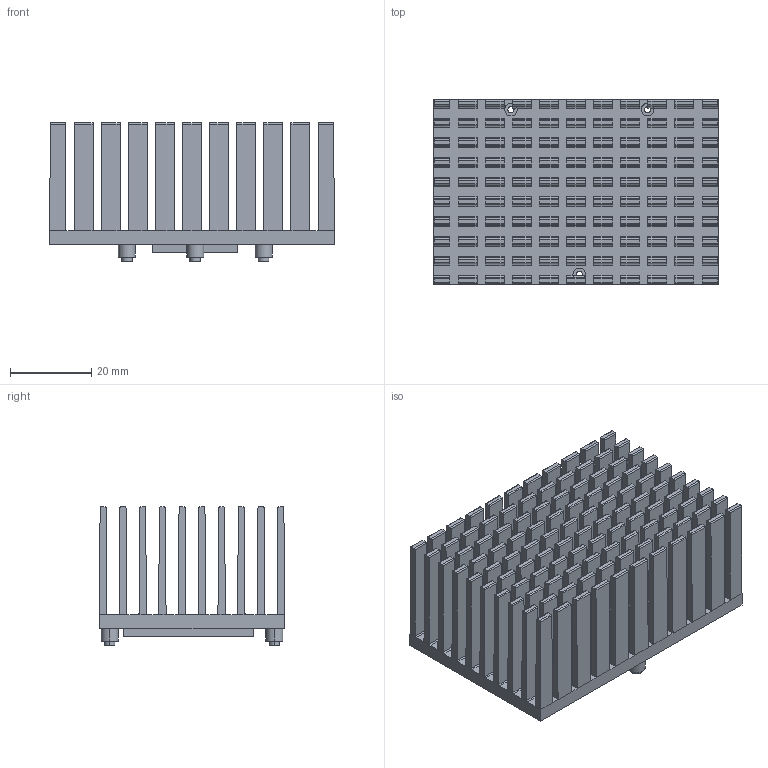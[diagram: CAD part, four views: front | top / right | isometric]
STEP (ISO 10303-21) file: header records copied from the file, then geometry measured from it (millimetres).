
FILE_DESCRIPTION (( 'STEP AP214' ), '1' );
FILE_NAME ('FIT0989-Fanless-Heatsink.step', '2024-02-23T09:28:19', ( 'China' ), ( 'Microsoft' ), 'SwSTEP 2.0', 'SolidWorks 2021', '' );
FILE_SCHEMA (( 'AUTOMOTIVE_DESIGN' ));
Length unit declared in the file: millimetre
Products named in the file (1): FIT0989-Fanless-Heatsink
Bounding box: 70 x 45.5 x 34 mm (x, y, z)
Volume: 34482 mm3; surface area: 43456.2 mm2
Topology: 4 solids, 4 shells, 1015 faces, 2716 edges, 1782 vertices
Faces by surface type: plane 573, cylinder 442
Entity records: 31761 total; most frequent: CARTESIAN_POINT 5742, DIRECTION 5486, ORIENTED_EDGE 5432, EDGE_CURVE 2716, AXIS2_PLACEMENT_3D 1830, VECTOR 1826, LINE 1826, VERTEX_POINT 1782
